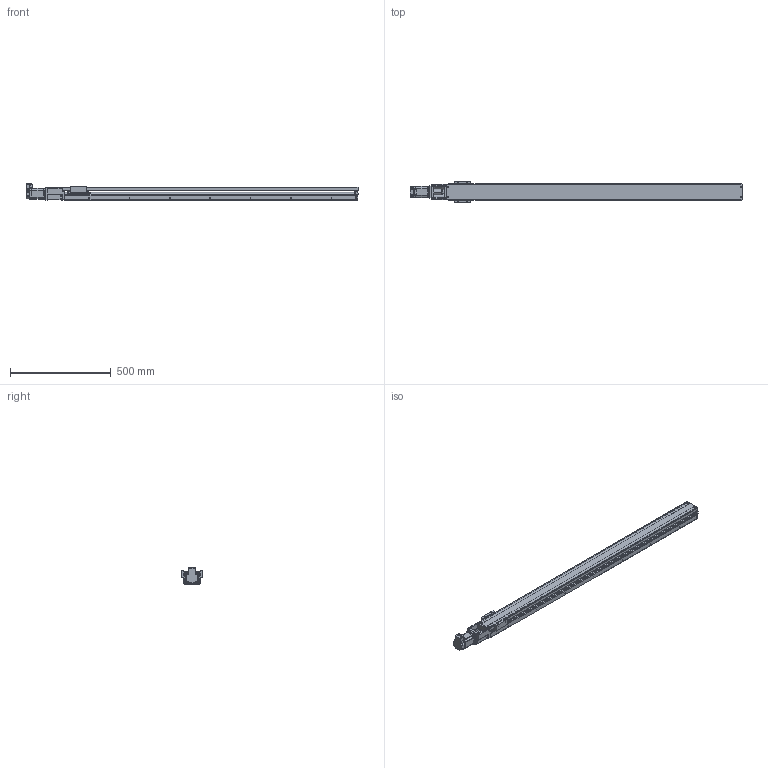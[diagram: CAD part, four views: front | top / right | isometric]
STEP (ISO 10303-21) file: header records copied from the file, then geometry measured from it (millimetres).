
FILE_DESCRIPTION(('FreeCAD Model'),'2;1');
FILE_NAME('Open CASCADE Shape Model','2023-07-31T11:57:20',('Author'),( ''),'Open CASCADE STEP processor 7.5','FreeCAD','Unknown');
FILE_SCHEMA(('AUTOMOTIVE_DESIGN { 1 0 10303 214 1 1 1 1 }'));
Length unit declared in the file: millimetre
Products named in the file (60): SCKR6A_______________; Shapes114; KR45H-SliderCS; KR45H-Slider SpacerCS; Shapes058; Shapes059; Shapes060; Shapes061; Shapes062; Shapes063; Shapes064; Shapes065; Shapes066; Shapes067; Shapes068; Shapes069; Shapes070; Shapes071; Shapes072; Shapes073; Shapes074; Shapes075; Shapes076; Shapes077; Shapes078; Shapes079; Shapes080; Shapes081; Shapes082; Shapes083; Shapes084; Shapes085; Shapes086; Shapes087; Shapes088; Shapes089; Shapes090; Shapes091; Shapes092; Shapes093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
Assembly tree (59 placements, depth 2):
  SCKR6A_______________
    Shapes114
    KR45H-SliderCS
    KR45H-Slider SpacerCS
    Shapes058
    Shapes059
    Shapes060
    Shapes061
    Shapes062
    Shapes063
    Shapes064
    Shapes065
    Shapes066
    Shapes067
    Shapes068
    Shapes069
    Shapes070
    Shapes071
    Shapes072
    Shapes073
    Shapes074
    Shapes075
    Shapes076
    Shapes077
    Shapes078
    Shapes079
    Shapes080
    Shapes081
    Shapes082
    Shapes083
    Shapes084
    Shapes085
    Shapes086
    Shapes087
    Shapes088
    Shapes089
    Shapes090
    Shapes091
    Shapes092
    Shapes093
    Shapes094
    Shapes095
    Shapes096
    Shapes097
    Shapes098
    Shapes099
    Shapes100
    Shapes101
    Shapes102
    Shapes103
    Shapes104
    Shapes105
    Shapes106
    Shapes107
    Shapes108
    Shapes109
    Shapes110
    Shapes111
    Shapes112
    Shapes113
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Bounding box: 1645.01 x 104 x 82.36 mm (x, y, z)
Volume: 3601560.7 mm3; surface area: 982044.8 mm2
Topology: 59 solids, 59 shells, 2447 faces, 6016 edges, 3693 vertices
Faces by surface type: cylinder 962, plane 840, torus 412, cone 130, bspline 89, sphere 14
Entity records: 169178 total; most frequent: CARTESIAN_POINT 45366, DIRECTION 24344, LINE 13142, VECTOR 13142, ORIENTED_EDGE 11912, PCURVE 11912, DEFINITIONAL_REPRESENTATION 11912, EDGE_CURVE 5956
